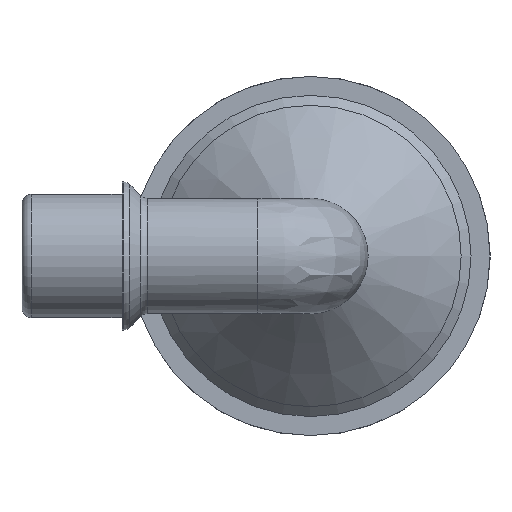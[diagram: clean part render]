
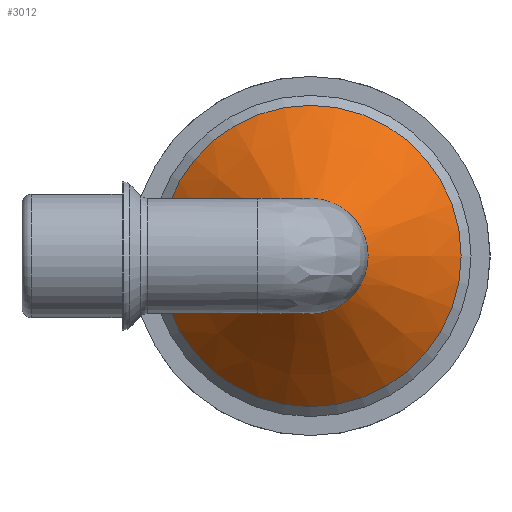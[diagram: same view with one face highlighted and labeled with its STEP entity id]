
A CAD part, left-side view. The second image highlights one B-rep face of the part: STEP entity #3012.
In plain terms, the highlighted conical face has half-angle 45 degrees and reference radius 17.698 mm.
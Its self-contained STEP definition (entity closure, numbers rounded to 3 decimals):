
#508=B_SPLINE_CURVE_WITH_KNOTS('',3,(#4619,#4620,#4621,#4622,#4623,#4624,
#4625,#4626,#4627,#4628,#4629,#4630,#4631,#4632),.UNSPECIFIED.,.F.,.F.,
(4,2,2,2,2,2,4),(3.758,3.863,4.032,4.201,
4.369,4.538,4.643),.UNSPECIFIED.);
#599=CONICAL_SURFACE('',#3230,17.698,45.);
#629=FACE_BOUND('',#870,.T.);
#655=FACE_OUTER_BOUND('',#869,.T.);
#869=EDGE_LOOP('',(#2026,#2027));
#870=EDGE_LOOP('',(#2028));
#1105=CIRCLE('',#3229,9.796);
#1106=CIRCLE('',#3231,25.6);
#1284=VERTEX_POINT('',#4614);
#1285=VERTEX_POINT('',#4615);
#1286=VERTEX_POINT('',#4633);
#1561=EDGE_CURVE('',#1284,#1285,#1105,.T.);
#1562=EDGE_CURVE('',#1284,#1285,#508,.T.);
#1563=EDGE_CURVE('',#1286,#1286,#1106,.T.);
#2026=ORIENTED_EDGE('',*,*,#1562,.F.);
#2027=ORIENTED_EDGE('',*,*,#1561,.T.);
#2028=ORIENTED_EDGE('',*,*,#1563,.F.);
#3012=ADVANCED_FACE('',(#655,#629),#599,.T.);
#3229=AXIS2_PLACEMENT_3D('',#4617,#3628,#3629);
#3230=AXIS2_PLACEMENT_3D('',#4618,#3630,#3631);
#3231=AXIS2_PLACEMENT_3D('',#4634,#3632,#3633);
#3628=DIRECTION('center_axis',(1.,0.,0.));
#3629=DIRECTION('ref_axis',(0.,0.,-1.));
#3630=DIRECTION('center_axis',(1.,0.,0.));
#3631=DIRECTION('ref_axis',(0.,1.,0.));
#3632=DIRECTION('center_axis',(1.,0.,0.));
#3633=DIRECTION('ref_axis',(0.,0.,-1.));
#4614=CARTESIAN_POINT('',(8.92,8.92,4.05));
#4615=CARTESIAN_POINT('',(8.92,8.92,-4.05));
#4617=CARTESIAN_POINT('Origin',(8.92,0.,0.));
#4618=CARTESIAN_POINT('Origin',(16.822,0.,0.));
#4619=CARTESIAN_POINT('Ctrl Pts',(8.92,8.92,4.05));
#4620=CARTESIAN_POINT('Ctrl Pts',(9.037,9.165,3.793));
#4621=CARTESIAN_POINT('Ctrl Pts',(9.145,9.387,3.524));
#4622=CARTESIAN_POINT('Ctrl Pts',(9.397,9.895,2.809));
#4623=CARTESIAN_POINT('Ctrl Pts',(9.543,10.183,2.284));
#4624=CARTESIAN_POINT('Ctrl Pts',(9.744,10.573,1.162));
#4625=CARTESIAN_POINT('Ctrl Pts',(9.796,10.673,0.562));
#4626=CARTESIAN_POINT('Ctrl Pts',(9.796,10.673,-0.562));
#4627=CARTESIAN_POINT('Ctrl Pts',(9.744,10.573,-1.162));
#4628=CARTESIAN_POINT('Ctrl Pts',(9.543,10.183,-2.284));
#4629=CARTESIAN_POINT('Ctrl Pts',(9.397,9.895,-2.809));
#4630=CARTESIAN_POINT('Ctrl Pts',(9.145,9.387,-3.524));
#4631=CARTESIAN_POINT('Ctrl Pts',(9.037,9.165,-3.793));
#4632=CARTESIAN_POINT('Ctrl Pts',(8.92,8.92,-4.05));
#4633=CARTESIAN_POINT('',(24.724,25.6,0.));
#4634=CARTESIAN_POINT('Origin',(24.724,0.,0.));
